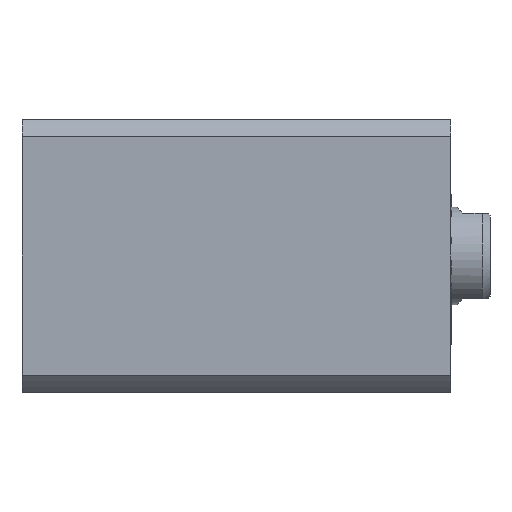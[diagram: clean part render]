
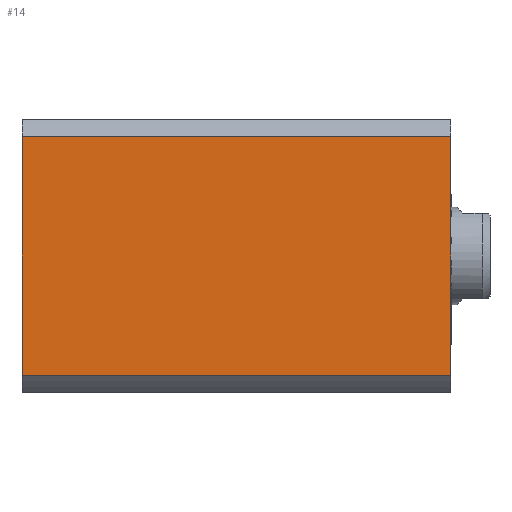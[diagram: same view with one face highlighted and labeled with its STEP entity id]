
A CAD part, left-side view. The second image highlights one B-rep face of the part: STEP entity #14.
In plain terms, the highlighted planar face has unit normal (-1, 0, 0).
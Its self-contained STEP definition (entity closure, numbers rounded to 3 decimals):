
#14 = ADVANCED_FACE ( 'NONE', ( #5421 ), #5216, .F. ) ;
#208 = CARTESIAN_POINT ( 'NONE',  ( -35., 35., 110. ) ) ;
#351 = VERTEX_POINT ( 'NONE', #6572 ) ;
#433 = EDGE_LOOP ( 'NONE', ( #9044, #486, #7033, #7533 ) ) ;
#486 = ORIENTED_EDGE ( 'NONE', *, *, #7922, .F. ) ;
#558 = DIRECTION ( 'NONE',  ( 0., 0., -1. ) ) ;
#600 = CARTESIAN_POINT ( 'NONE',  ( -35., -30.615, 110. ) ) ;
#859 = CARTESIAN_POINT ( 'NONE',  ( -35., 30.615, 110. ) ) ;
#1128 = CARTESIAN_POINT ( 'NONE',  ( -35., -30.615, 0. ) ) ;
#1217 = VECTOR ( 'NONE', #3347, 1000. ) ;
#1775 = EDGE_CURVE ( 'NONE', #351, #3380, #2959, .T. ) ;
#1803 = AXIS2_PLACEMENT_3D ( 'NONE', #208, #7647, #5290 ) ;
#2879 = VERTEX_POINT ( 'NONE', #600 ) ;
#2898 = DIRECTION ( 'NONE',  ( 0., 0., 1. ) ) ;
#2959 = LINE ( 'NONE', #5114, #5037 ) ;
#3315 = LINE ( 'NONE', #8811, #1217 ) ;
#3347 = DIRECTION ( 'NONE',  ( 0., -1., 0. ) ) ;
#3380 = VERTEX_POINT ( 'NONE', #1128 ) ;
#3709 = CARTESIAN_POINT ( 'NONE',  ( -35., -30.615, 300. ) ) ;
#4991 = VERTEX_POINT ( 'NONE', #859 ) ;
#5037 = VECTOR ( 'NONE', #5149, 1000. ) ;
#5114 = CARTESIAN_POINT ( 'NONE',  ( -35., 35., 0. ) ) ;
#5149 = DIRECTION ( 'NONE',  ( 0., -1., 0. ) ) ;
#5216 = PLANE ( 'NONE',  #1803 ) ;
#5290 = DIRECTION ( 'NONE',  ( 0., 1., 0. ) ) ;
#5403 = VECTOR ( 'NONE', #558, 1000. ) ;
#5421 = FACE_OUTER_BOUND ( 'NONE', #433, .T. ) ;
#6007 = EDGE_CURVE ( 'NONE', #2879, #3380, #7516, .T. ) ;
#6572 = CARTESIAN_POINT ( 'NONE',  ( -35., 30.615, 0. ) ) ;
#6831 = CARTESIAN_POINT ( 'NONE',  ( -35., 30.615, 300. ) ) ;
#7033 = ORIENTED_EDGE ( 'NONE', *, *, #9817, .F. ) ;
#7516 = LINE ( 'NONE', #3709, #5403 ) ;
#7533 = ORIENTED_EDGE ( 'NONE', *, *, #1775, .T. ) ;
#7647 = DIRECTION ( 'NONE',  ( 1., 0., 0. ) ) ;
#7751 = VECTOR ( 'NONE', #2898, 1000. ) ;
#7922 = EDGE_CURVE ( 'NONE', #4991, #2879, #3315, .T. ) ;
#8811 = CARTESIAN_POINT ( 'NONE',  ( -35., 35., 110. ) ) ;
#9044 = ORIENTED_EDGE ( 'NONE', *, *, #6007, .F. ) ;
#9817 = EDGE_CURVE ( 'NONE', #351, #4991, #9825, .T. ) ;
#9825 = LINE ( 'NONE', #6831, #7751 ) ;
